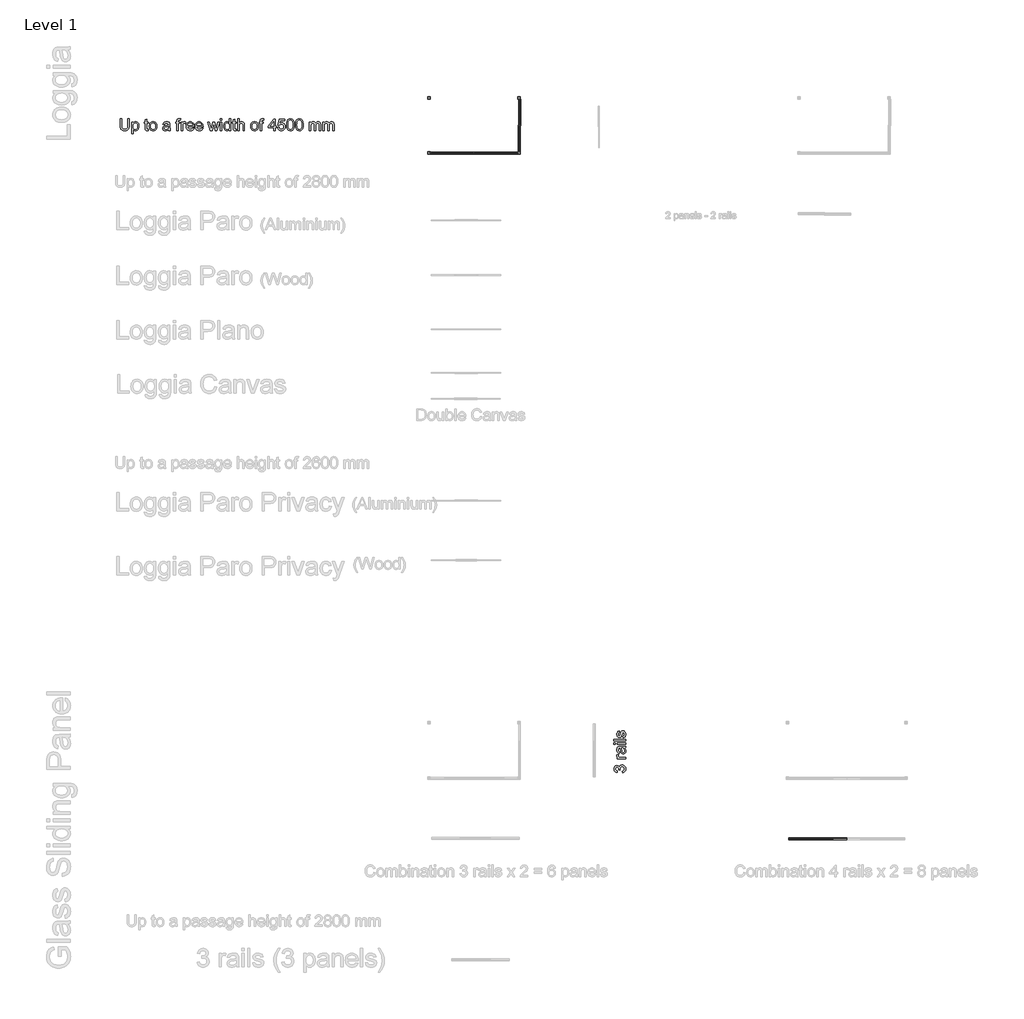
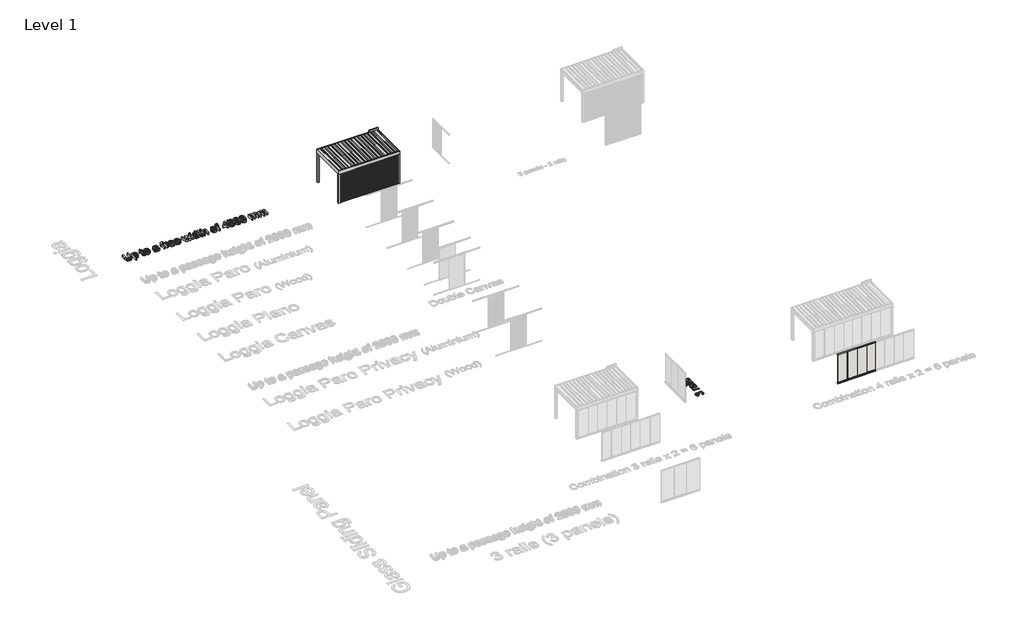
# One storey, part 17 of 47: 7 proxies, 1 wall.
"""IFC4 building model written with IfcOpenShell, lengths in millimetres."""

from ifc_helpers import new_model, si_unit, origin, origin_with_axes, place, context, project, spatial, polyline, outline, extrude, transform, mapped, element, save
from components import generic_models_23aa06c6, generic_models_22d4a11b, generic_models_7b957c62, generic_models_5f8b4816, generic_models_6c472f40, wall_39287447

model = new_model("IFC4")

# Units and contexts
model_context = context("Model", 3, world=origin())
ifc_project = project(units=[si_unit("LENGTHUNIT", "METRE", prefix="MILLI")], contexts=[model_context])

# Site, building, storey
site = spatial("IfcSite", under=ifc_project)
building = spatial("IfcBuilding", under=site)
storey = spatial("IfcBuildingStorey", under=building, Name="Level 1", Elevation=0.0)

# Proxies
placement = place(None, origin())
generic_models_shape = generic_models_23aa06c6(model_context)
element("IfcBuildingElementProxy", 1, Name="Renson_Algarve_Loggia_Paro_Aluminium : Renson_Algarve_Loggia_Paro_Aluminium", ObjectType="Renson_Algarve_Loggia_Paro_Aluminium : Renson_Algarve_Loggia_Paro_Aluminium", at=placement, inside=storey, context=model_context, shape_type="MappedRepresentation", body=[
    mapped(generic_models_shape, transform((190293.3333344, -13805.6941749, 0.0), x_axis=(0.0, 1.0, 0.0), y_axis=(-1.0, 0.0, 0.0), z_axis=(0.0, 0.0, 1.0))),
])
generic_models_2_shape = generic_models_22d4a11b(model_context)
element("IfcBuildingElementProxy", 2, Name="Renson_Algarve_Loggia_Paro_Aluminium : Renson_Algarve_Loggia_Paro_Aluminium", ObjectType="Renson_Algarve_Loggia_Paro_Aluminium : Renson_Algarve_Loggia_Paro_Aluminium", at=placement, inside=storey, context=model_context, shape_type="MappedRepresentation", body=[
    mapped(generic_models_2_shape, transform((190349.4238385, -12673.1941749, 0.0), x_axis=(0.0, 1.0, 0.0), y_axis=(-1.0, 0.0, 0.0), z_axis=(0.0, 0.0, 1.0))),
])
generic_models_3_shape = generic_models_7b957c62(model_context)
element("IfcBuildingElementProxy", 3, Name="Renson_Algarve_Loggia_Paro_Aluminium : Renson_Algarve_Loggia_Paro_Aluminium", ObjectType="Renson_Algarve_Loggia_Paro_Aluminium : Renson_Algarve_Loggia_Paro_Aluminium", at=placement, inside=storey, context=model_context, shape_type="MappedRepresentation", body=[
    mapped(generic_models_3_shape, transform((187417.4238385, -14410.7354346, 0.0), x_axis=(1.0, 0.0, 0.0), y_axis=(0.0, 1.0, 0.0), z_axis=(0.0, 0.0, 1.0))),
])
generic_models_4_shape = generic_models_5f8b4816(model_context)
element("IfcBuildingElementProxy", 4, Name="Renson_Algarve_Loggia_Paro_Aluminium : Renson_Algarve_Loggia_Paro_Aluminium", ObjectType="Renson_Algarve_Loggia_Paro_Aluminium : Renson_Algarve_Loggia_Paro_Aluminium", at=placement, inside=storey, context=model_context, shape_type="MappedRepresentation", body=[
    mapped(generic_models_4_shape, transform((189307.4238385, -14466.8259387, 0.0), x_axis=(1.0, 0.0, 0.0), y_axis=(0.0, 1.0, 0.0), z_axis=(0.0, 0.0, 1.0))),
])
generic_models_5_shape = generic_models_6c472f40(model_context)
element("IfcBuildingElementProxy", 5, Name="Renson_Algarve_Single : Algarve - Single", ObjectType="Renson_Algarve_Single : Algarve - Single", at=placement, inside=storey, context=model_context, shape_type="MappedRepresentation", body=[
    mapped(generic_models_5_shape, transform((188362.4238385, -13240.6941749, 0.0), x_axis=(1.0, 0.0, 0.0), y_axis=(0.0, 1.0, 0.0), z_axis=(0.0, 0.0, 1.0))),
])
element("IfcBuildingElementProxy", 6, Name="500mm Arial", ObjectType="500mm Arial", at=placement, inside=storey, context=model_context, shape_type="SweptSolid", body=[
    extrude(outline(polyline([(173403.9255584, -12956.4083813), (173466.7107522, -12956.4083813), (173466.7107522, -13246.1767662), (173462.4494525, -13314.0356658), (173449.6655531, -13366.2902376), (173439.4338351, -13387.4817733), (173425.7838803, -13406.6039729), (173408.7156886, -13423.6568362), (173388.2292599, -13438.6403633), (173364.3016018, -13450.8456149), (173336.9097216, -13459.5636518), (173306.0536193, -13464.7944739), (173271.7332948, -13466.5380813), (173238.2598653, -13465.020568), (173207.9824107, -13460.4680283), (173180.9009309, -13452.8804622), (173157.015426, -13442.2578696), (173136.3220637, -13428.7573668), (173118.8170121, -13412.5360701), (173104.5002712, -13393.5939794), (173093.3718408, -13371.9310948), (173085.0293501, -13346.8039881), (173079.0704282, -13317.4692311), (173074.3032907, -13246.1767662), (173074.3032907, -12956.4083813), (173137.0884846, -12956.4083813), (173137.0884846, -13243.9694742), (173140.1848247, -13300.3933752), (173149.4738451, -13339.6801066), (173166.3044464, -13366.8880458), (173192.0255292, -13387.0755703), (173225.5641044, -13399.5835581), (173265.8471829, -13403.7528874), (173300.4510831, -13401.6912154), (173329.7053659, -13395.5061994), (173353.6100314, -13385.1978393), (173372.1650795, -13370.7661352), (173386.060289, -13350.4713118), (173395.9854387, -13322.5735938), (173401.9405285, -13287.0729813), (173403.9255584, -13243.9694742), (173403.9255584, -12956.4083813)])), origin_with_axes(), (0.0, 0.0, 1.0), 150.0),
    extrude(outline(polyline([(173568.7366922, -13599.9566182), (173568.7366922, -13089.8269182), (173631.5218861, -13089.8269182), (173631.5218861, -13151.3858387), (173652.0006505, -13121.0202457), (173674.9319615, -13099.3305364), (173701.6647198, -13086.3167108), (173733.5478261, -13081.978769), (173755.444469, -13083.4962822), (173776.0075397, -13088.0488219), (173795.2370381, -13095.636388), (173813.1329644, -13106.2589807), (173829.3044437, -13119.6406882), (173843.3606016, -13135.5055993), (173865.126953, -13174.6850318), (173878.2787344, -13220.9461926), (173882.6626615, -13271.4379965), (173877.7115829, -13325.1334394), (173862.8583474, -13373.1573682), (173851.8372159, -13394.4332102), (173838.5781357, -13413.0725646), (173823.0811067, -13429.0754314), (173805.3461288, -13442.4418106), (173766.6418772, -13460.5140136), (173725.9449315, -13466.5380813), (173697.0815233, -13462.5067077), (173671.3144552, -13450.4125871), (173649.2568639, -13432.1564431), (173631.5218861, -13409.6389993), (173631.5218861, -13599.9566182), (173568.7366922, -13599.9566182)]), holes=[polyline([(173631.5218861, -13277.2014811), (173633.2195082, -13307.4597752), (173638.3123746, -13333.4874263), (173646.8004852, -13355.2844346), (173658.6838401, -13372.8507998), (173672.9890847, -13386.3704631), (173688.7428648, -13396.0273655), (173705.9451801, -13401.8215069), (173724.5960309, -13403.7528874), (173743.5151289, -13401.7525291), (173761.0316768, -13395.751454), (173777.1456746, -13385.7496623), (173791.8571223, -13371.7471538), (173804.1160234, -13353.5446593), (173812.8723813, -13330.9429092), (173818.126196, -13303.9419036), (173819.8774676, -13272.5416425), (173818.1683492, -13242.5439314), (173813.0409939, -13216.5622655), (173804.4954017, -13194.5966447), (173792.5315726, -13176.6470691), (173778.191839, -13162.6982101), (173762.5185332, -13152.7347394), (173745.5116551, -13146.756657), (173727.1712048, -13144.7639628), (173708.8882361, -13146.8831164), (173691.6859207, -13153.2405771), (173675.5642587, -13163.836345), (173660.52325, -13178.67042), (173647.8351533, -13197.5435328), (173638.7722271, -13220.2564139), (173633.3344713, -13246.8090633), (173631.5218861, -13277.2014811)])]), origin_with_axes(), (0.0, 0.0, 1.0), 150.0),
    extrude(outline(polyline([(174282.9182722, -13406.3280614), (174290.7664214, -13460.529342), (174243.8001534, -13466.5380813), (174213.6644866, -13463.9322505), (174191.1930281, -13456.1147581), (174175.3127886, -13444.0666227), (174164.9507791, -13428.7688631), (174159.2486082, -13402.4959573), (174157.3478845, -13357.5223834), (174157.3478845, -13152.612112), (174110.2589891, -13152.612112), (174110.2589891, -13089.8269182), (174157.3478845, -13089.8269182), (174157.3478845, -13000.1863387), (174220.1330784, -12963.2755119), (174220.1330784, -13089.8269182), (174282.9182722, -13089.8269182), (174282.9182722, -13152.612112), (174220.1330784, -13152.612112), (174220.1330784, -13355.6829734), (174223.4440163, -13388.056589), (174234.1739079, -13399.5222445), (174255.5723772, -13403.7528874), (174282.9182722, -13406.3280614)])), origin_with_axes(), (0.0, 0.0, 1.0), 150.0),
    extrude(outline(polyline([(174330.0071676, -13274.2584251), (174333.4024118, -13226.4874152), (174343.5881446, -13185.3229528), (174360.5643658, -13150.7650379), (174384.3310756, -13122.8136704), (174408.2587337, -13104.948401), (174434.6695952, -13092.1874943), (174463.5636603, -13084.5309503), (174494.9409288, -13081.978769), (174529.5793179, -13085.0866054), (174560.8991048, -13094.4101147), (174588.9002896, -13109.9492969), (174613.5828722, -13131.704152), (174633.7282436, -13158.9389159), (174648.1177945, -13190.9178248), (174656.7515251, -13227.6408785), (174659.6294353, -13269.1080772), (174654.540401, -13332.5370645), (174648.1791082, -13358.5723799), (174639.2732982, -13380.8215764), (174627.9341021, -13400.0395785), (174614.272651, -13416.9813108), (174598.2889447, -13431.6467733), (174579.9829833, -13444.0359659), (174539.2553808, -13460.9125524), (174494.9409288, -13466.5380813), (174459.7967019, -13463.4417411), (174428.1856751, -13454.1527208), (174400.1078482, -13438.6710201), (174375.5632213, -13416.9966392), (174355.6324478, -13389.4974601), (174341.396181, -13356.5413647), (174332.854421, -13318.128353), (174330.0071676, -13274.2584251)]), holes=[polyline([(174392.7923614, -13274.1357978), (174394.6087788, -13304.5895292), (174400.0580308, -13330.9582376), (174409.1401176, -13353.2419231), (174421.8550391, -13371.4405855), (174437.3214113, -13385.5772176), (174454.6578503, -13395.6748119), (174473.8643561, -13401.7333685), (174494.9409288, -13403.7528874), (174515.9102025, -13401.7218722), (174535.0400662, -13395.6288267), (174552.33052, -13385.4737508), (174567.7815638, -13371.2566445), (174580.4964853, -13352.8778732), (174589.578572, -13330.237802), (174595.0278241, -13303.3364312), (174596.8442414, -13272.1737605), (174595.0163278, -13242.6857193), (174589.5325868, -13217.0067896), (174580.3930185, -13195.1369714), (174567.5976228, -13177.0762647), (174552.0890975, -13162.9396326), (174534.81014, -13152.8420383), (174515.7607504, -13146.7834817), (174494.9409288, -13144.7639628), (174473.8643561, -13146.7758175), (174454.6578503, -13152.8113815), (174437.3214113, -13162.8706548), (174421.8550391, -13176.9536374), (174409.1401176, -13195.0986504), (174400.0580308, -13217.3440148), (174394.6087788, -13243.6897306), (174392.7923614, -13274.1357978)])]), origin_with_axes(), (0.0, 0.0, 1.0), 150.0),
    extrude(outline(polyline([(175161.910986, -13411.6010366), (175131.913275, -13437.3221195), (175101.0265158, -13454.1527208), (175068.5456013, -13463.4417411), (175033.7654244, -13466.5380813), (175005.8102248, -13464.6756787), (174981.2962548, -13459.0884709), (174960.2235143, -13449.7764579), (174942.5920032, -13436.7396397), (174928.669969, -13420.8057507), (174918.7256588, -13402.8025256), (174912.7590727, -13382.7299642), (174910.7702106, -13360.5880667), (174913.7745803, -13334.5604155), (174922.7876892, -13310.9239973), (174936.6905629, -13290.6904876), (174954.3642271, -13274.8715618), (174975.1342314, -13262.9153969), (174998.3261255, -13254.27017), (175052.6500335, -13244.8278655), (175116.8454416, -13234.8950516), (175161.543104, -13223.2454551), (175161.910986, -13209.2659393), (175157.5883726, -13181.245594), (175144.6205323, -13162.9128079), (175131.545393, -13154.9726882), (175115.6191683, -13149.3011741), (175075.2134625, -13144.7639628), (175037.8121263, -13147.7836609), (175011.6925047, -13156.842755), (174993.8808847, -13173.5967142), (174981.4035537, -13199.7010074), (174918.6183599, -13191.8528582), (174929.516864, -13157.5172053), (174945.7803139, -13130.5391923), (174968.9262227, -13109.9071438), (175000.4721038, -13094.6093841), (175039.0537281, -13085.1364228), (175083.3068664, -13081.978769), (175125.7512516, -13084.7685408), (175159.3971257, -13093.1378562), (175184.765655, -13105.7224861), (175202.3780055, -13121.1582015), (175214.0582588, -13140.24208), (175221.6304966, -13163.7711992), (175224.6961799, -13218.7082438), (175224.6961799, -13296.8218542), (175227.8844905, -13405.8988657), (175232.6056428, -13432.8615503), (175240.3924783, -13458.689932), (175177.6072845, -13458.689932), (175167.5518433, -13436.862267), (175161.910986, -13411.6010366)]), holes=[polyline([(175161.910986, -13286.030649), (175119.7271839, -13296.484629), (175060.62081, -13305.28314), (175006.6034704, -13315.4612086), (174992.5473125, -13322.4203097), (174982.1393177, -13332.0158984), (174975.7013828, -13343.5122107), (174973.5554045, -13356.1734827), (174978.2305715, -13374.843494), (174992.2560726, -13390.1412536), (175015.3253394, -13400.349979), (175047.1318035, -13403.7528874), (175080.8543198, -13399.9974254), (175110.6527614, -13388.7310393), (175134.8103457, -13372.1303642), (175151.6102902, -13352.3720354), (175159.0599006, -13332.0158984), (175161.543104, -13303.8116121), (175161.910986, -13286.030649)])]), origin_with_axes(), (0.0, 0.0, 1.0), 150.0),
    extrude(outline(polyline([(175522.9258506, -13458.689932), (175522.9258506, -13152.612112), (175467.988806, -13152.612112), (175467.988806, -13089.8269182), (175522.9258506, -13089.8269182), (175522.9258506, -13052.6708367), (175524.5813196, -13021.9220333), (175529.5477265, -13000.308966), (175542.1783417, -12979.4316628), (175561.6760874, -12962.9076299), (175588.9606688, -12952.1470815), (175624.9517906, -12948.5602321), (175682.2187545, -12955.4273626), (175673.0217047, -13014.2884819), (175636.8466418, -13011.3454259), (175612.9802974, -13013.9512567), (175597.2993273, -13021.7687491), (175588.6081152, -13036.6986267), (175585.7110445, -13060.6416132), (175585.7110445, -13089.8269182), (175656.3443875, -13089.8269182), (175656.3443875, -13152.612112), (175585.7110445, -13152.612112), (175585.7110445, -13458.689932), (175522.9258506, -13458.689932)])), origin_with_axes(), (0.0, 0.0, 1.0), 150.0),
    extrude(outline(polyline([(175711.2814322, -13458.689932), (175711.2814322, -13089.8269182), (175766.2184768, -13089.8269182), (175766.2184768, -13144.3960808), (175786.5133002, -13112.7582292), (175805.2139683, -13094.1188748), (175823.97595, -13085.0137954), (175844.4547144, -13081.978769), (175875.724684, -13086.8225486), (175907.4851629, -13101.3538874), (175886.5158892, -13157.6398326), (175864.4429695, -13147.9829303), (175842.3700498, -13144.7639628), (175823.6233964, -13147.8603029), (175806.8694372, -13157.1493233), (175793.3344455, -13171.9259168), (175784.2446945, -13191.4849762), (175776.6111431, -13226.5563931), (175774.066626, -13264.8161206), (175774.066626, -13458.689932), (175711.2814322, -13458.689932)])), origin_with_axes(), (0.0, 0.0, 1.0), 150.0),
    extrude(outline(polyline([(176204.9790697, -13348.8158428), (176266.5379902, -13356.663992), (176257.0995178, -13381.3197499), (176244.3577716, -13403.0477803), (176228.3127516, -13421.8480831), (176208.964458, -13437.7206583), (176186.5121599, -13450.3282808), (176161.155127, -13459.3337255), (176132.8933591, -13464.7369923), (176101.7268564, -13466.5380813), (176062.7696859, -13463.4302448), (176028.0584868, -13454.1067355), (175997.5932591, -13438.5675533), (175971.3740027, -13416.8126982), (175950.2897659, -13389.4476428), (175935.2295967, -13357.0778593), (175926.1934952, -13319.7033478), (175923.1814614, -13277.3241084), (175926.224152, -13233.5078299), (175935.352224, -13194.8878847), (175950.5656774, -13161.4642726), (175971.8645121, -13133.2369936), (175998.0147906, -13110.8115203), (176027.7825753, -13094.7933251), (176061.1678664, -13085.182408), (176098.1706637, -13081.978769), (176133.9816767, -13085.1747438), (176166.3667886, -13094.7626683), (176195.3259994, -13110.7425425), (176220.8593091, -13133.1143663), (176241.7021234, -13161.2803316), (176256.5898479, -13194.64263), (176265.5224826, -13233.2012616), (176268.5000275, -13276.9562264), (176268.1321455, -13293.8787982), (175985.9666552, -13293.8787982), (175989.603322, -13318.9330949), (175996.8345025, -13340.8757231), (176007.6601966, -13359.7066827), (176022.0804044, -13375.4259738), (176039.2980482, -13387.8189985), (176058.5160504, -13396.671159), (176079.7344108, -13401.9824553), (176102.9531297, -13403.7528874), (176136.3690776, -13400.4726063), (176164.5120502, -13390.6317629), (176187.3820476, -13373.6172206), (176204.9790697, -13348.8158428)]), holes=[polyline([(175985.9666552, -13231.0936043), (176205.7148337, -13231.0936043), (176197.2228909, -13197.9229111), (176180.5762307, -13174.1945224), (176163.4543895, -13161.3186526), (176143.9719721, -13152.1216027), (176122.1289787, -13146.6033728), (176097.9254091, -13144.7639628), (176055.6036512, -13150.6347463), (176037.1903909, -13157.9732257), (176020.6088764, -13168.2470968), (176006.6945064, -13180.9811788), (175996.2826795, -13195.7002907), (175989.3733958, -13212.4044326), (175985.9666552, -13231.0936043)])]), origin_with_axes(), (0.0, 0.0, 1.0), 150.0),
    extrude(outline(polyline([(176589.538382, -13348.8158428), (176651.0973025, -13356.663992), (176641.6588301, -13381.3197499), (176628.9170839, -13403.0477803), (176612.8720639, -13421.8480831), (176593.5237703, -13437.7206583), (176571.0714722, -13450.3282808), (176545.7144393, -13459.3337255), (176517.4526714, -13464.7369923), (176486.2861687, -13466.5380813), (176447.3289982, -13463.4302448), (176412.6177991, -13454.1067355), (176382.1525714, -13438.5675533), (176355.933315, -13416.8126982), (176334.8490782, -13389.4476428), (176319.788909, -13357.0778593), (176310.7528075, -13319.7033478), (176307.7407737, -13277.3241084), (176310.7834643, -13233.5078299), (176319.9115363, -13194.8878847), (176335.1249897, -13161.4642726), (176356.4238244, -13133.2369936), (176382.5741029, -13110.8115203), (176412.3418876, -13094.7933251), (176445.7271787, -13085.182408), (176482.729976, -13081.978769), (176518.540989, -13085.1747438), (176550.9261009, -13094.7626683), (176579.8853117, -13110.7425425), (176605.4186214, -13133.1143663), (176626.2614357, -13161.2803316), (176641.1491602, -13194.64263), (176650.0817949, -13233.2012616), (176653.0593398, -13276.9562264), (176652.6914578, -13293.8787982), (176370.5259675, -13293.8787982), (176374.1626343, -13318.9330949), (176381.3938148, -13340.8757231), (176392.2195089, -13359.7066827), (176406.6397167, -13375.4259738), (176423.8573605, -13387.8189985), (176443.0753626, -13396.671159), (176464.2937231, -13401.9824553), (176487.512442, -13403.7528874), (176520.9283899, -13400.4726063), (176549.0713625, -13390.6317629), (176571.9413599, -13373.6172206), (176589.538382, -13348.8158428)]), holes=[polyline([(176370.5259675, -13231.0936043), (176590.274146, -13231.0936043), (176581.7822032, -13197.9229111), (176565.135543, -13174.1945224), (176548.0137018, -13161.3186526), (176528.5312844, -13152.1216027), (176506.688291, -13146.6033728), (176482.4847214, -13144.7639628), (176440.1629635, -13150.6347463), (176421.7497032, -13157.9732257), (176405.1681887, -13168.2470968), (176391.2538187, -13180.9811788), (176380.8419918, -13195.7002907), (176373.9327081, -13212.4044326), (176370.5259675, -13231.0936043)])]), origin_with_axes(), (0.0, 0.0, 1.0), 150.0),
    extrude(outline(polyline([(176973.2393029, -13458.689932), (176861.0352944, -13089.8269182), (176926.2730349, -13089.8269182), (176989.9166201, -13305.0378854), (177008.9238565, -13381.9252224), (177024.4975276, -13307.858314), (177075.1426156, -13089.8269182), (177149.945288, -13089.8269182), (177200.3451213, -13307.2451774), (177214.2020098, -13374.3223278), (177234.0676375, -13303.5663574), (177297.83385, -13089.8269182), (177363.3168452, -13089.8269182), (177250.2544453, -13458.689932), (177174.348127, -13458.689932), (177126.1555856, -13242.3753189), (177112.1760698, -13174.9302864), (177050.0040126, -13458.689932), (176973.2393029, -13458.689932)])), origin_with_axes(), (0.0, 0.0, 1.0), 150.0),
    extrude(outline(polyline([(177406.4816659, -13019.1935751), (177406.4816659, -12956.4083813), (177469.2668598, -12956.4083813), (177469.2668598, -13019.1935751), (177406.4816659, -13019.1935751)])), origin_with_axes(), (0.0, 0.0, 1.0), 150.0),
    extrude(outline(polyline([(177406.4816659, -13458.689932), (177406.4816659, -13089.8269182), (177469.2668598, -13089.8269182), (177469.2668598, -13458.689932), (177406.4816659, -13458.689932)])), origin_with_axes(), (0.0, 0.0, 1.0), 150.0),
    extrude(outline(polyline([(177791.0409782, -13458.689932), (177791.0409782, -13399.4609308), (177772.2560038, -13428.8071841), (177749.5009696, -13449.7687936), (177722.7758755, -13462.3457594), (177692.0807215, -13466.5380813), (177651.4910747, -13460.4680283), (177614.3349932, -13442.2578696), (177582.8810826, -13413.1798635), (177559.3979486, -13374.5062688), (177544.7746393, -13327.8005838), (177539.9002028, -13274.6263071), (177544.3914289, -13222.1111523), (177557.8651069, -13174.6850318), (177567.9665334, -13153.5548097), (177580.3059086, -13135.0457468), (177594.8832327, -13119.1578431), (177611.6985056, -13105.8910987), (177649.6669932, -13087.9568514), (177691.8354669, -13081.978769), (177722.5536135, -13086.2553972), (177749.7155674, -13099.0852817), (177772.738849, -13118.7516401), (177791.0409782, -13143.5376895), (177791.0409782, -12956.4083813), (177853.8261721, -12956.4083813), (177853.8261721, -13458.689932), (177791.0409782, -13458.689932)]), holes=[polyline([(177602.6853967, -13274.3810524), (177604.4558288, -13304.8271197), (177609.7671251, -13331.1728355), (177618.6192856, -13353.4181998), (177631.0123103, -13371.5632128), (177645.8118964, -13385.6461955), (177661.8837411, -13395.7054688), (177679.2278443, -13401.7410328), (177697.8442061, -13403.7528874), (177716.5487063, -13401.8330033), (177733.7893427, -13396.0733508), (177749.5661154, -13386.47393), (177763.8790242, -13373.0347408), (177775.7623791, -13355.6484844), (177784.2504897, -13334.2078619), (177789.3433561, -13308.7128732), (177791.0409782, -13279.1635184), (177789.3126993, -13246.7669102), (177784.1278624, -13218.9841553), (177775.4864676, -13195.8152539), (177763.3885149, -13177.2602057), (177748.7613735, -13163.0430994), (177732.5324126, -13152.8880235), (177714.7016321, -13146.794978), (177695.2690321, -13144.7639628), (177676.2847883, -13146.7145038), (177658.9406851, -13152.5661268), (177643.2367224, -13162.3188318), (177629.1729003, -13175.9726187), (177617.5846175, -13193.8263918), (177609.3072726, -13216.1790551), (177604.3408657, -13243.0306087), (177602.6853967, -13274.3810524)])]), origin_with_axes(), (0.0, 0.0, 1.0), 150.0),
    extrude(outline(polyline([(178081.4224997, -13406.3280614), (178089.270649, -13460.529342), (178042.3043809, -13466.5380813), (178012.1687142, -13463.9322505), (177989.6972556, -13456.1147581), (177973.8170162, -13444.0666227), (177963.4550066, -13428.7688631), (177957.7528357, -13402.4959573), (177955.8521121, -13357.5223834), (177955.8521121, -13152.612112), (177908.7632167, -13152.612112), (177908.7632167, -13089.8269182), (177955.8521121, -13089.8269182), (177955.8521121, -13000.1863387), (178018.6373059, -12963.2755119), (178018.6373059, -13089.8269182), (178081.4224997, -13089.8269182), (178081.4224997, -13152.612112), (178018.6373059, -13152.612112), (178018.6373059, -13355.6829734), (178021.9482439, -13388.056589), (178032.6781354, -13399.5222445), (178054.0766048, -13403.7528874), (178081.4224997, -13406.3280614)])), origin_with_axes(), (0.0, 0.0, 1.0), 150.0),
    extrude(outline(polyline([(178144.2076936, -13458.689932), (178144.2076936, -12956.4083813), (178206.9928874, -12956.4083813), (178206.9928874, -13141.0851429), (178230.05449, -13115.2261043), (178255.9518496, -13096.7553624), (178284.6849663, -13085.6729173), (178316.25384, -13081.978769), (178354.1763423, -13086.0101425), (178386.7645557, -13098.1042631), (178412.4243249, -13117.3107689), (178429.5614945, -13142.6792982), (178439.2183969, -13177.5361172), (178442.4373643, -13225.2074924), (178442.4373643, -13458.689932), (178379.6521705, -13458.689932), (178379.6521705, -13231.706741), (178374.6551067, -13192.4046812), (178368.408777, -13177.3981615), (178359.6639154, -13165.4879819), (178348.6274556, -13156.4212235), (178335.5063311, -13149.9449676), (178303.0100882, -13144.7639628), (178276.4765993, -13148.2588418), (178251.5679225, -13158.7434786), (178230.935874, -13175.2061979), (178217.2322696, -13196.6353241), (178209.552733, -13225.1155219), (178206.9928874, -13262.7314559), (178206.9928874, -13458.689932), (178144.2076936, -13458.689932)])), origin_with_axes(), (0.0, 0.0, 1.0), 150.0),
    extrude(outline(polyline([(178709.2744382, -13274.2584251), (178712.6696824, -13226.4874152), (178722.8554152, -13185.3229528), (178739.8316364, -13150.7650379), (178763.5983461, -13122.8136704), (178787.5260042, -13104.948401), (178813.9368658, -13092.1874943), (178842.8309308, -13084.5309503), (178874.2081994, -13081.978769), (178908.8465885, -13085.0866054), (178940.1663754, -13094.4101147), (178968.1675602, -13109.9492969), (178992.8501428, -13131.704152), (179012.9955141, -13158.9389159), (179027.3850651, -13190.9178248), (179036.0187957, -13227.6408785), (179038.8967059, -13269.1080772), (179033.8076716, -13332.5370645), (179027.4463788, -13358.5723799), (179018.5405688, -13380.8215764), (179007.2013727, -13400.0395785), (178993.5399215, -13416.9813108), (178977.5562153, -13431.6467733), (178959.2502539, -13444.0359659), (178918.5226514, -13460.9125524), (178874.2081994, -13466.5380813), (178839.0639725, -13463.4417411), (178807.4529456, -13454.1527208), (178779.3751188, -13438.6710201), (178754.8304919, -13416.9966392), (178734.8997184, -13389.4974601), (178720.6634516, -13356.5413647), (178712.1216915, -13318.128353), (178709.2744382, -13274.2584251)]), holes=[polyline([(178772.059632, -13274.1357978), (178773.8760494, -13304.5895292), (178779.3253014, -13330.9582376), (178788.4073882, -13353.2419231), (178801.1223096, -13371.4405855), (178816.5886819, -13385.5772176), (178833.9251209, -13395.6748119), (178853.1316267, -13401.7333685), (178874.2081994, -13403.7528874), (178895.1774731, -13401.7218722), (178914.3073368, -13395.6288267), (178931.5977906, -13385.4737508), (178947.0488344, -13371.2566445), (178959.7637559, -13352.8778732), (178968.8458426, -13330.237802), (178974.2950947, -13303.3364312), (178976.111512, -13272.1737605), (178974.2835984, -13242.6857193), (178968.7998574, -13217.0067896), (178959.660289, -13195.1369714), (178946.8648934, -13177.0762647), (178931.356368, -13162.9396326), (178914.0774106, -13152.8420383), (178895.028021, -13146.7834817), (178874.2081994, -13144.7639628), (178853.1316267, -13146.7758175), (178833.9251209, -13152.8113815), (178816.5886819, -13162.8706548), (178801.1223096, -13176.9536374), (178788.4073882, -13195.0986504), (178779.3253014, -13217.3440148), (178773.8760494, -13243.6897306), (178772.059632, -13274.1357978)])]), origin_with_axes(), (0.0, 0.0, 1.0), 150.0),
    extrude(outline(polyline([(179125.2263474, -13458.689932), (179125.2263474, -13152.612112), (179070.2893028, -13152.612112), (179070.2893028, -13089.8269182), (179125.2263474, -13089.8269182), (179125.2263474, -13052.6708367), (179126.8818164, -13021.9220333), (179131.8482233, -13000.308966), (179144.4788385, -12979.4316628), (179163.9765842, -12962.9076299), (179191.2611655, -12952.1470815), (179227.2522874, -12948.5602321), (179284.5192513, -12955.4273626), (179275.3222014, -13014.2884819), (179239.1471386, -13011.3454259), (179215.2807941, -13013.9512567), (179199.5998241, -13021.7687491), (179190.908612, -13036.6986267), (179188.0115412, -13060.6416132), (179188.0115412, -13089.8269182), (179258.6448843, -13089.8269182), (179258.6448843, -13152.612112), (179188.0115412, -13152.612112), (179188.0115412, -13458.689932), (179125.2263474, -13458.689932)])), origin_with_axes(), (0.0, 0.0, 1.0), 150.0),
    extrude(outline(polyline([(179698.1412412, -13458.689932), (179698.1412412, -13340.9676936), (179470.5449135, -13340.9676936), (179470.5449135, -13278.1824997), (179713.8375397, -12964.2565305), (179760.9264351, -12964.2565305), (179760.9264351, -13278.1824997), (179823.7116289, -13278.1824997), (179823.7116289, -13340.9676936), (179760.9264351, -13340.9676936), (179760.9264351, -13458.689932), (179698.1412412, -13458.689932)]), holes=[polyline([(179698.1412412, -13278.1824997), (179698.1412412, -13084.1860609), (179547.8001325, -13278.1824997), (179698.1412412, -13278.1824997)])]), origin_with_axes(), (0.0, 0.0, 1.0), 150.0),
    extrude(outline(polyline([(179878.6486735, -13325.2713951), (179941.4338674, -13317.4232459), (179952.9608365, -13355.115822), (179961.9432886, -13369.949897), (179973.0717189, -13382.1091634), (179986.323135, -13391.5782926), (180001.6745441, -13398.3419564), (180038.6773414, -13403.7528874), (180062.5896711, -13401.8713243), (180083.6815722, -13396.2266349), (180101.9530446, -13386.8188193), (180117.4040884, -13373.6478775), (180129.6898142, -13357.3652671), (180138.4653326, -13338.6224459), (180143.7306437, -13317.4194138), (180145.4857474, -13293.7561709), (180143.8417747, -13271.3920112), (180138.9098567, -13251.5110551), (180130.6899934, -13234.1133024), (180119.1821847, -13219.1987532), (180104.3481097, -13207.2349241), (180086.1494472, -13198.6893319), (180064.5861973, -13193.5619766), (180039.6583601, -13191.8528582), (180009.2007966, -13194.5813163), (179984.5373745, -13202.7666907), (179964.8403593, -13215.3053354), (179949.2820166, -13231.0936043), (179886.4968227, -13223.2454551), (179941.4338674, -12964.2565305), (180184.7264935, -12964.2565305), (180184.7264935, -13027.0417244), (179992.2015827, -13027.0417244), (179965.346197, -13165.3653545), (179987.503423, -13149.4851151), (180010.1971436, -13138.1420869), (180033.4273588, -13131.33627), (180057.1940685, -13129.0676644), (180087.7704273, -13131.8804288), (180115.8559183, -13140.318722), (180141.4505417, -13154.3825441), (180164.5542974, -13174.0718951), (180183.6803291, -13198.1834942), (180197.3417803, -13225.5140608), (180205.538651, -13256.0635948), (180208.2709412, -13289.8320962), (180205.8107304, -13322.358996), (180198.4300978, -13352.6172901), (180186.1290436, -13380.6069786), (180168.9075677, -13406.3280614), (180142.8186029, -13432.6699451), (180112.3763678, -13451.4855763), (180077.5808624, -13462.774955), (180038.4320868, -13466.5380813), (180006.0316465, -13464.1200236), (179976.7658673, -13456.8658505), (179950.6347493, -13444.775562), (179927.6382925, -13427.8491581), (179908.5045967, -13406.9297017), (179893.9617616, -13382.8602558), (179884.0097872, -13355.6408202), (179878.6486735, -13325.2713951)])), origin_with_axes(), (0.0, 0.0, 1.0), 150.0),
    extrude(outline(polyline([(180263.2079858, -13211.5958586), (180267.8218392, -13131.1983142), (180281.6633992, -13067.0795482), (180292.0100803, -13040.8794523), (180304.5947103, -13018.2585417), (180319.417289, -12999.2168164), (180336.4778165, -12983.7542763), (180355.8337744, -12971.7904472), (180377.5426442, -12963.244855), (180401.604426, -12958.1174997), (180428.0191196, -12956.4083813), (180466.7080428, -12960.4550832), (180501.350264, -12972.5951891), (180530.3209711, -12992.3535179), (180551.995352, -13019.2548888), (180568.3661008, -13053.0693755), (180581.4259116, -13093.5670518), (180589.979168, -13144.9938891), (180592.8302535, -13211.5958586), (180588.2623854, -13291.5335505), (180574.5587811, -13355.4990324), (180564.2925741, -13381.7106245), (180551.7654258, -13404.3660241), (180536.977336, -13423.465231), (180519.9283048, -13439.0082453), (180500.5493543, -13451.0525485), (180478.7715066, -13459.6556223), (180454.5947617, -13464.8174665), (180428.0191196, -13466.5380813), (180393.4382121, -13463.5490401), (180362.7813792, -13454.5819164), (180336.0486209, -13439.6367104), (180313.2399372, -13418.7134219), (180291.3509584, -13380.8905543), (180275.7159736, -13333.7633378), (180266.3349828, -13277.3317726), (180263.2079858, -13211.5958586)]), holes=[polyline([(180325.9931797, -13211.4732313), (180327.8325896, -13266.0538902), (180333.3508196, -13310.2342186), (180342.5478694, -13344.0142163), (180355.4237393, -13367.3938836), (180370.9974104, -13383.3009477), (180388.2878642, -13394.6631365), (180407.2951006, -13401.4804497), (180428.0191196, -13403.7528874), (180448.7431387, -13401.4727855), (180467.7503751, -13394.6324796), (180485.0408289, -13383.2319699), (180500.6145, -13367.2712562), (180513.4903699, -13343.853268), (180522.6874197, -13310.0809344), (180528.2056497, -13265.9542555), (180530.0450596, -13211.4732313), (180528.2669633, -13158.3372756), (180522.9326744, -13114.9348644), (180514.0421929, -13081.2659976), (180501.5955187, -13057.3306753), (180486.2824306, -13040.645694), (180468.7927074, -13028.7278502), (180449.1263491, -13021.5771439), (180427.2833557, -13019.1935751), (180406.6666355, -13021.2935682), (180387.9812958, -13027.5935473), (180371.2273366, -13038.0935126), (180356.4047579, -13052.793464), (180343.0996924, -13078.851772), (180333.5960742, -13113.9845026), (180327.8939033, -13158.1916556), (180325.9931797, -13211.4732313)])]), origin_with_axes(), (0.0, 0.0, 1.0), 150.0),
    extrude(outline(polyline([(180647.7672981, -13211.5958586), (180652.3811515, -13131.1983142), (180666.2227115, -13067.0795482), (180676.5693926, -13040.8794523), (180689.1540226, -13018.2585417), (180703.9766013, -12999.2168164), (180721.0371288, -12983.7542763), (180740.3930867, -12971.7904472), (180762.1019565, -12963.244855), (180786.1637383, -12958.1174997), (180812.5784319, -12956.4083813), (180851.2673551, -12960.4550832), (180885.9095763, -12972.5951891), (180914.8802834, -12992.3535179), (180936.5546643, -13019.2548888), (180952.9254131, -13053.0693755), (180965.9852239, -13093.5670518), (180974.5384803, -13144.9938891), (180977.3895658, -13211.5958586), (180972.8216977, -13291.5335505), (180959.1180934, -13355.4990324), (180948.8518864, -13381.7106245), (180936.3247381, -13404.3660241), (180921.5366483, -13423.465231), (180904.4876171, -13439.0082453), (180885.1086666, -13451.0525485), (180863.3308189, -13459.6556223), (180839.154074, -13464.8174665), (180812.5784319, -13466.5380813), (180777.9975244, -13463.5490401), (180747.3406915, -13454.5819164), (180720.6079331, -13439.6367104), (180697.7992494, -13418.7134219), (180675.9102707, -13380.8905543), (180660.2752859, -13333.7633378), (180650.8942951, -13277.3317726), (180647.7672981, -13211.5958586)]), holes=[polyline([(180710.5524919, -13211.4732313), (180712.3919019, -13266.0538902), (180717.9101318, -13310.2342186), (180727.1071817, -13344.0142163), (180739.9830516, -13367.3938836), (180755.5567227, -13383.3009477), (180772.8471765, -13394.6631365), (180791.8544129, -13401.4804497), (180812.5784319, -13403.7528874), (180833.302451, -13401.4727855), (180852.3096874, -13394.6324796), (180869.6001412, -13383.2319699), (180885.1738123, -13367.2712562), (180898.0496822, -13343.853268), (180907.246732, -13310.0809344), (180912.764962, -13265.9542555), (180914.6043719, -13211.4732313), (180912.8262756, -13158.3372756), (180907.4919867, -13114.9348644), (180898.6015051, -13081.2659976), (180886.154831, -13057.3306753), (180870.8417429, -13040.645694), (180853.3520197, -13028.7278502), (180833.6856614, -13021.5771439), (180811.8426679, -13019.1935751), (180791.2259478, -13021.2935682), (180772.5406081, -13027.5935473), (180755.7866489, -13038.0935126), (180740.9640702, -13052.793464), (180727.6590047, -13078.851772), (180718.1553865, -13113.9845026), (180712.4532156, -13158.1916556), (180710.5524919, -13211.4732313)])]), origin_with_axes(), (0.0, 0.0, 1.0), 150.0),
    extrude(outline(polyline([(181244.2266396, -13458.689932), (181244.2266396, -13089.8269182), (181307.0118335, -13089.8269182), (181307.0118335, -13150.5274474), (181325.8964425, -13122.6450579), (181350.1766542, -13100.8020644), (181379.024734, -13086.6845928), (181411.6129474, -13081.978769), (181446.5310801, -13086.7765633), (181474.5207686, -13101.1699464), (181495.4287287, -13124.2085563), (181509.1016761, -13154.9420313), (181531.9870019, -13123.0206041), (181558.0912952, -13100.2195846), (181587.4145559, -13086.5389729), (181619.956784, -13081.978769), (181645.0915549, -13083.8756605), (181667.1529783, -13089.5663351), (181686.1410542, -13099.0507928), (181702.0557826, -13112.3290336), (181714.6365804, -13129.5543416), (181723.6228646, -13150.880001), (181729.0146351, -13176.3060118), (181730.8118919, -13205.832374), (181730.8118919, -13458.689932), (181668.0266981, -13458.689932), (181668.0266981, -13232.810387), (181666.5704985, -13201.4944322), (181662.2018998, -13180.3872027), (181654.0165254, -13165.932506), (181641.1099987, -13154.5741494), (181624.5093237, -13147.2165094), (181605.2415042, -13144.7639628), (181587.4490448, -13146.3351255), (181571.2277481, -13151.0486136), (181556.577614, -13158.904427), (181543.4986427, -13169.9025658), (181532.7419264, -13184.3649268), (181525.0585577, -13202.6134066), (181520.4485364, -13224.6480052), (181518.9118627, -13250.4687228), (181518.9118627, -13458.689932), (181456.1266688, -13458.689932), (181456.1266688, -13225.8206291), (181452.4938341, -13190.3200165), (181441.59533, -13164.9974725), (181433.1685331, -13156.145312), (181422.419481, -13149.8223402), (181393.9546116, -13144.7639628), (181369.7663705, -13148.1362144), (181347.4788529, -13158.2529693), (181329.0847532, -13174.8689728), (181316.5767653, -13197.7389701), (181309.4030664, -13229.4687922), (181307.0118335, -13272.6642698), (181307.0118335, -13458.689932), (181244.2266396, -13458.689932)])), origin_with_axes(), (0.0, 0.0, 1.0), 150.0),
    extrude(outline(polyline([(181824.9896827, -13458.689932), (181824.9896827, -13089.8269182), (181887.7748765, -13089.8269182), (181887.7748765, -13150.5274474), (181906.6594856, -13122.6450579), (181930.9396973, -13100.8020644), (181959.7877771, -13086.6845928), (181992.3759905, -13081.978769), (182027.2941232, -13086.7765633), (182055.2838116, -13101.1699464), (182076.1917717, -13124.2085563), (182089.8647192, -13154.9420313), (182112.750045, -13123.0206041), (182138.8543382, -13100.2195846), (182168.1775989, -13086.5389729), (182200.7198271, -13081.978769), (182225.854598, -13083.8756605), (182247.9160214, -13089.5663351), (182266.9040973, -13099.0507928), (182282.8188257, -13112.3290336), (182295.3996235, -13129.5543416), (182304.3859076, -13150.880001), (182309.7776781, -13176.3060118), (182311.574935, -13205.832374), (182311.574935, -13458.689932), (182248.7897411, -13458.689932), (182248.7897411, -13232.810387), (182247.3335415, -13201.4944322), (182242.9649429, -13180.3872027), (182234.7795685, -13165.932506), (182221.8730418, -13154.5741494), (182205.2723668, -13147.2165094), (182186.0045473, -13144.7639628), (182168.2120879, -13146.3351255), (182151.9907911, -13151.0486136), (182137.3406571, -13158.904427), (182124.2616857, -13169.9025658), (182113.5049695, -13184.3649268), (182105.8216007, -13202.6134066), (182101.2115795, -13224.6480052), (182099.6749057, -13250.4687228), (182099.6749057, -13458.689932), (182036.8897119, -13458.689932), (182036.8897119, -13225.8206291), (182033.2568772, -13190.3200165), (182022.3583731, -13164.9974725), (182013.9315761, -13156.145312), (182003.1825241, -13149.8223402), (181974.7176547, -13144.7639628), (181950.5294135, -13148.1362144), (181928.241896, -13158.2529693), (181909.8477962, -13174.8689728), (181897.3398084, -13197.7389701), (181890.1661095, -13229.4687922), (181887.7748765, -13272.6642698), (181887.7748765, -13458.689932), (181824.9896827, -13458.689932)])), origin_with_axes(), (0.0, 0.0, 1.0), 150.0),
])
element("IfcBuildingElementProxy", 7, Name="500mm Arial", ObjectType="500mm Arial", at=placement, inside=storey, context=model_context, shape_type="SweptSolid", body=[
    extrude(outline(polyline([(194771.806737, -41210.9598402), (194763.9585878, -41148.1746463), (194803.4139318, -41134.1184884), (194818.3361452, -41124.6416949), (194830.0547196, -41113.5324251), (194838.9068801, -41100.5377601), (194845.2298519, -41085.4047809), (194850.2882293, -41048.7238803), (194848.5484541, -41025.9765103), (194843.3291283, -41005.6816869), (194834.6302519, -40987.8394101), (194822.451825, -40972.44968), (194807.7058884, -40960.0566553), (194791.3044828, -40951.2044947), (194773.2476082, -40945.8931984), (194753.5352646, -40944.1227663), (194734.7617865, -40945.87787), (194717.6820985, -40951.1431811), (194702.2962005, -40959.9186995), (194688.6040925, -40972.2044253), (194677.3645311, -40987.1956166), (194669.336273, -41004.0875316), (194664.5193181, -41022.8801701), (194662.9136665, -41043.5735324), (194669.780797, -41087.5967445), (194606.9956032, -41080.6069865), (194607.7313672, -41070.5515453), (194603.2248127, -41032.9356113), (194589.7051494, -40999.3050656), (194579.4810956, -40985.4635055), (194566.8351521, -40975.5766769), (194551.7673187, -40969.6445798), (194534.2775955, -40967.667214), (194507.1616268, -40973.4000418), (194485.1653491, -40990.5985251), (194470.5880251, -41016.840774), (194465.728917, -41049.704899), (194470.6340103, -41082.6303375), (194485.3492901, -41109.5470368), (194496.38575, -41120.4378767), (194509.8747565, -41129.1980667), (194544.2104094, -41140.3264971), (194536.3622601, -41203.1116909), (194506.3875417, -41195.6697447), (194479.9843444, -41184.6256207), (194457.152668, -41169.9793188), (194437.8925127, -41151.7308389), (194422.6024173, -41130.4549969), (194411.6809206, -41106.7266082), (194405.1280225, -41080.5456729), (194402.9437232, -41051.9121909), (194407.2510082, -41012.4415185), (194420.1728633, -40976.1898136), (194440.5596572, -40945.6249512), (194467.2617587, -40923.2148063), (194498.0258905, -40909.4652167), (194530.5987755, -40904.8820202), (194560.9490401, -40909.2352905), (194588.4788761, -40922.2951013), (194611.9313533, -40943.8775117), (194630.0495416, -40973.7985806), (194636.5947754, -40952.8752921), (194645.929781, -40934.4965208), (194658.0545584, -40918.6622666), (194672.9691077, -40905.3725295), (194690.3055467, -40894.8572358), (194709.6959935, -40887.3463117), (194731.1404481, -40882.8397573), (194754.6389106, -40881.3375725), (194786.49136, -40884.3419421), (194815.8299491, -40893.355051), (194842.6546779, -40908.3768991), (194866.9655465, -40929.4074865), (194887.1377425, -40955.0289347), (194901.546454, -40983.823365), (194910.1916809, -41015.7907775), (194913.0734232, -41050.9311723), (194910.6132123, -41082.6916512), (194903.2325798, -41111.6317015), (194890.9315256, -41137.7513231), (194873.7100497, -41161.0505162), (194852.5798276, -41180.5865829), (194828.5525348, -41195.4168259), (194801.6281713, -41205.541245), (194771.806737, -41210.9598402)])), origin_with_axes(), (0.0, 0.0, 1.0), 5.0),
    extrude(outline(polyline([(194905.225274, -40614.5004987), (194536.3622601, -40614.5004987), (194536.3622601, -40559.563454), (194590.9314227, -40559.563454), (194559.2935712, -40539.2686306), (194540.6542167, -40520.5679626), (194531.5491373, -40501.8059808), (194528.5141109, -40481.3272164), (194533.3578905, -40450.0572468), (194547.8892293, -40418.2967679), (194604.1751746, -40439.2660416), (194594.5182722, -40461.3389613), (194591.2993047, -40483.411881), (194594.3956449, -40502.1585344), (194603.6846652, -40518.9124936), (194618.4612587, -40532.4474853), (194638.0203181, -40541.5372363), (194673.091735, -40549.1707877), (194711.3514625, -40551.7153048), (194905.225274, -40551.7153048), (194905.225274, -40614.5004987)])), origin_with_axes(), (0.0, 0.0, 1.0), 5.0),
    extrude(outline(polyline([(194858.1363786, -40143.6115448), (194883.8574614, -40173.6092559), (194900.6880627, -40204.496015), (194909.9770831, -40236.9769295), (194913.0734232, -40271.7571065), (194911.2110206, -40299.712306), (194905.6238128, -40324.226276), (194896.3117998, -40345.2990166), (194883.2749816, -40362.9305276), (194867.3410927, -40376.8525619), (194849.3378675, -40386.7968721), (194829.2653062, -40392.7634582), (194807.1234086, -40394.7523202), (194781.0957574, -40391.7479506), (194757.4593392, -40382.7348417), (194737.2258295, -40368.831968), (194721.4069037, -40351.1583038), (194709.4507389, -40330.3882995), (194700.805512, -40307.1964054), (194691.3632074, -40252.8724974), (194681.4303936, -40188.6770892), (194669.780797, -40143.9794268), (194655.8012812, -40143.6115448), (194627.7809359, -40147.9341583), (194609.4481498, -40160.9019986), (194601.5080301, -40173.9771379), (194595.836516, -40189.9033626), (194591.2993047, -40230.3090684), (194594.3190028, -40267.7104045), (194603.3780969, -40293.8300262), (194620.1320561, -40311.6416461), (194646.2363493, -40324.1189771), (194638.3882001, -40386.904171), (194604.0525472, -40376.0056669), (194577.0745343, -40359.742217), (194556.4424857, -40336.5963081), (194541.1447261, -40305.050427), (194531.6717647, -40266.4688028), (194528.5141109, -40222.2156645), (194531.3038827, -40179.7712793), (194539.6731981, -40146.1254051), (194552.257828, -40120.7568759), (194567.6935434, -40103.1445254), (194586.7774219, -40091.464272), (194610.3065412, -40083.8920343), (194665.2435858, -40080.826351), (194743.3571961, -40080.826351), (194852.4342076, -40077.6380404), (194879.3968922, -40072.9168881), (194905.225274, -40065.1300525), (194905.225274, -40127.9152464), (194883.3976089, -40137.9706876), (194858.1363786, -40143.6115448)]), holes=[polyline([(194732.5659909, -40143.6115448), (194743.0199709, -40185.7953469), (194751.818482, -40244.9017208), (194761.9965505, -40298.9190605), (194768.9556516, -40312.9752184), (194778.5512403, -40323.3832131), (194790.0475526, -40329.8211481), (194802.7088246, -40331.9671264), (194821.3788359, -40327.2919593), (194836.6765955, -40313.2664583), (194846.8853209, -40290.1971915), (194850.2882293, -40258.3907273), (194846.5327673, -40224.6682111), (194835.2663812, -40194.8697695), (194818.6657062, -40170.7121851), (194798.9073773, -40153.9122407), (194778.5512403, -40146.4626303), (194750.346954, -40143.9794268), (194732.5659909, -40143.6115448)])]), origin_with_axes(), (0.0, 0.0, 1.0), 5.0),
    extrude(outline(polyline([(194905.225274, -39994.4967095), (194536.3622601, -39994.4967095), (194536.3622601, -39931.7115156), (194905.225274, -39931.7115156), (194905.225274, -39994.4967095)])), origin_with_axes(), (0.0, 0.0, 1.0), 5.0),
    extrude(outline(polyline([(194465.728917, -39994.4967095), (194402.9437232, -39994.4967095), (194402.9437232, -39931.7115156), (194465.728917, -39931.7115156), (194465.728917, -39994.4967095)])), origin_with_axes(), (0.0, 0.0, 1.0), 5.0),
    extrude(outline(polyline([(194905.225274, -39837.5337248), (194402.9437232, -39837.5337248), (194402.9437232, -39774.748531), (194905.225274, -39774.748531), (194905.225274, -39837.5337248)])), origin_with_axes(), (0.0, 0.0, 1.0), 5.0),
    extrude(outline(polyline([(194795.3511847, -39704.1151879), (194787.5030355, -39641.3299941), (194814.3584211, -39631.427837), (194834.1014215, -39612.2673165), (194846.2415274, -39583.725805), (194850.2882293, -39545.6806753), (194846.5787526, -39508.0953982), (194835.4503222, -39481.6692082), (194819.3248281, -39466.0342234), (194800.62416, -39460.8225618), (194784.6212932, -39466.0648802), (194772.4198737, -39481.7918355), (194754.5162833, -39546.4164393), (194737.9462651, -39603.7140601), (194723.7981367, -39640.9621121), (194708.3624213, -39664.8897702), (194687.9296421, -39682.2262092), (194663.8027146, -39692.7568313), (194637.2845541, -39696.2670387), (194612.9583572, -39693.4466101), (194590.5022271, -39684.9853242), (194570.8052119, -39671.6496019), (194554.7563599, -39654.2058639), (194544.6549334, -39636.8694249), (194536.1783191, -39614.2906674), (194530.4301629, -39588.1863742), (194528.5141109, -39560.2733278), (194531.5951226, -39519.4077695), (194540.8381577, -39483.8765001), (194555.3388397, -39455.3043319), (194574.192792, -39435.3160768), (194598.7949004, -39422.072325), (194630.5400509, -39413.7336664), (194638.3882001, -39476.5188602), (194618.6298713, -39484.4436516), (194603.7459789, -39500.1246216), (194594.4109733, -39523.7150545), (194591.2993047, -39555.3682345), (194594.2730175, -39591.4206701), (194603.1941559, -39615.4556271), (194616.0700257, -39628.9752904), (194630.9079329, -39633.4818449), (194640.5648353, -39631.611778), (194649.1794053, -39626.0015776), (194656.8742704, -39616.4059889), (194663.0362938, -39602.5797573), (194676.402673, -39548.501104), (194705.9558599, -39456.3466642), (194720.0886599, -39432.0051388), (194739.4331215, -39413.5497254), (194764.0505583, -39401.9154573), (194794.0022841, -39398.0373679), (194824.9656853, -39402.5899076), (194854.0896766, -39416.2475267), (194879.0903239, -39438.489059), (194897.683693, -39468.7933383), (194909.2259906, -39505.3975969), (194913.0734232, -39546.5390667), (194911.2186848, -39580.3305608), (194905.6544696, -39609.8454267), (194896.3807776, -39635.0836644), (194883.3976089, -39656.0452739), (194866.766277, -39673.1671151), (194846.5480957, -39686.8860478), (194822.7430649, -39697.2020721), (194795.3511847, -39704.1151879)])), origin_with_axes(), (0.0, 0.0, 1.0), 5.0),
])

# Wall
wall_shape = wall_39287447(model_context)
element("IfcWall", 8, ObjectType="Renson_Algarve_Glass_Sliding_Panel : Renson_Algarve_Glass_Sliding_Panel", at=placement, inside=storey, context=model_context, shape_type="MappedRepresentation", body=[
    mapped(wall_shape, transform((203705.1485758, -44033.1209465, 0.0), x_axis=(1.0, 0.0, 0.0), y_axis=(0.0, 1.0, 0.0), z_axis=(0.0, 0.0, 1.0))),
])

save(model, "model.ifc")
